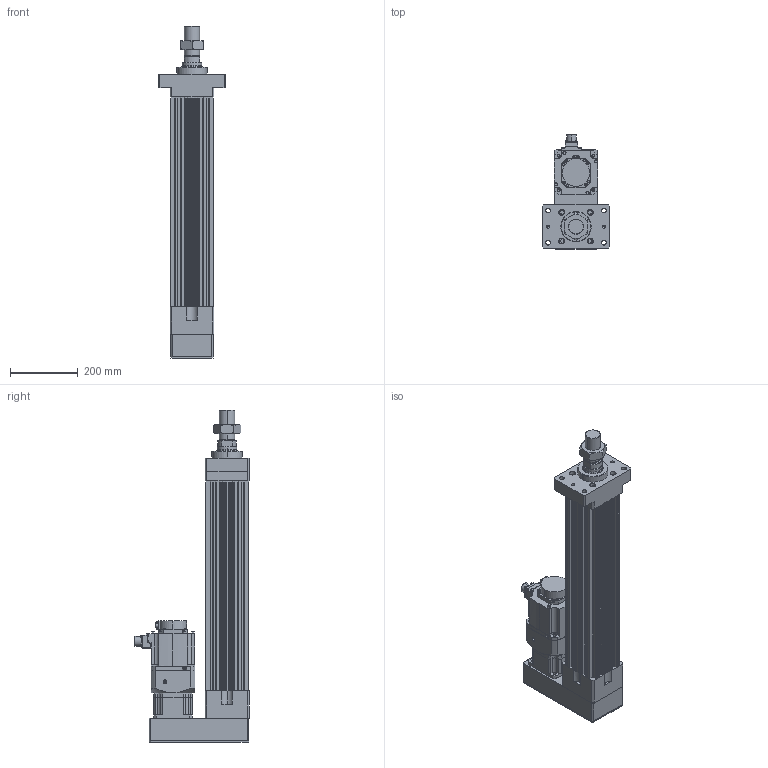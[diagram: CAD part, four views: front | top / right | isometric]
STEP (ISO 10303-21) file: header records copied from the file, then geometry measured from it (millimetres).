
FILE_DESCRIPTION (( 'STEP AP203' ), '1' );
FILE_NAME ('HES130NS(FS)(HS)-P400-W015G00-M-FMA.STEP', '2023-01-29T04:47:10', ( 'tms' ), ( '' ), 'SwSTEP 2.0', 'SolidWorks 2013', '' );
FILE_SCHEMA (( 'CONFIG_CONTROL_DESIGN' ));
Length unit declared in the file: millimetre
Products named in the file (8): HES130 ROD M ST400; P0401400706; HES130-P400-G120-FMA; HES130NS(FS)(HS)-P400-W015G00-M-FMA; AB1151; AB115-003[HG-SR152]; HG-SR152; M45X1.5P
Assembly tree (7 placements, depth 3):
  HES130NS(FS)(HS)-P400-W015G00-M-FMA
    HES130-P400-G120-FMA
    HES130 ROD M ST400
    M45X1.5P
    AB115-003[HG-SR152]
      AB1151
      P0401400706
    HG-SR152
Bounding box: 200 x 337.49 x 982 mm (x, y, z)
Volume: 11641024.4 mm3; surface area: 1368772.4 mm2
Topology: 4 solids, 11 shells, 1082 faces, 2768 edges, 1799 vertices
Faces by surface type: cylinder 513, plane 489, cone 68, bspline 8, torus 4
Entity records: 34626 total; most frequent: CARTESIAN_POINT 6632, DIRECTION 5993, ORIENTED_EDGE 5484, EDGE_CURVE 2752, AXIS2_PLACEMENT_3D 2228, VERTEX_POINT 1799, LINE 1537, VECTOR 1537
